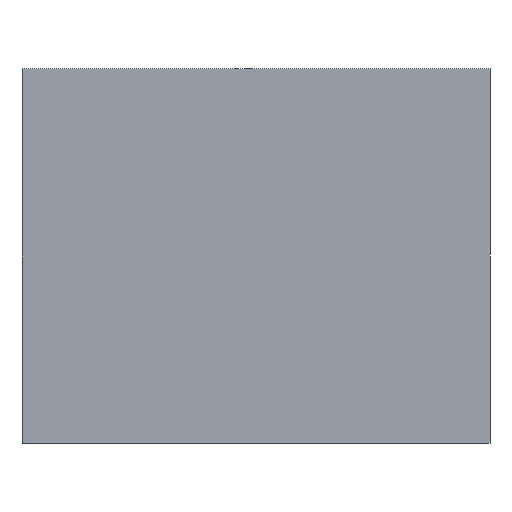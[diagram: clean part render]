
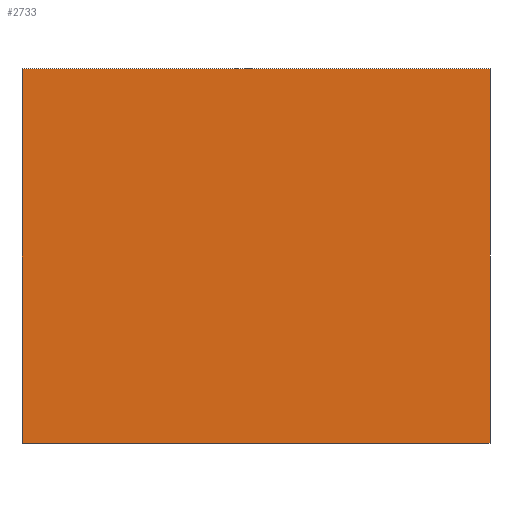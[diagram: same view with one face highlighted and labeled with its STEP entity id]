
A CAD part, front view. The second image highlights one B-rep face of the part: STEP entity #2733.
In plain terms, the highlighted planar face has unit normal (0, -1, 0).
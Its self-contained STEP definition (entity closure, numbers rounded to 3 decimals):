
#11 = VECTOR ( 'NONE', #1750, 1000. ) ;
#49 = DIRECTION ( 'NONE',  ( 0., -1., 0. ) ) ;
#60 = EDGE_LOOP ( 'NONE', ( #558, #2192, #3564, #272 ) ) ;
#76 = EDGE_CURVE ( 'NONE', #2793, #431, #1223, .T. ) ;
#272 = ORIENTED_EDGE ( 'NONE', *, *, #463, .F. ) ;
#431 = VERTEX_POINT ( 'NONE', #3971 ) ;
#463 = EDGE_CURVE ( 'NONE', #3827, #962, #4269, .T. ) ;
#558 = ORIENTED_EDGE ( 'NONE', *, *, #2464, .F. ) ;
#877 = CARTESIAN_POINT ( 'NONE',  ( -137.5, -135., 110.454 ) ) ;
#962 = VERTEX_POINT ( 'NONE', #5035 ) ;
#1223 = LINE ( 'NONE', #4070, #4080 ) ;
#1278 = VECTOR ( 'NONE', #3626, 1000. ) ;
#1381 = VECTOR ( 'NONE', #4583, 1000. ) ;
#1549 = DIRECTION ( 'NONE',  ( 1., 0., 0. ) ) ;
#1750 = DIRECTION ( 'NONE',  ( 0., 0., 1. ) ) ;
#2090 = CARTESIAN_POINT ( 'NONE',  ( 137.5, -135., -109.5 ) ) ;
#2192 = ORIENTED_EDGE ( 'NONE', *, *, #76, .F. ) ;
#2232 = EDGE_CURVE ( 'NONE', #962, #2793, #3202, .T. ) ;
#2245 = CARTESIAN_POINT ( 'NONE',  ( 137.5, -135., -109.5 ) ) ;
#2358 = CARTESIAN_POINT ( 'NONE',  ( 0., -135., 0. ) ) ;
#2403 = LINE ( 'NONE', #2245, #1381 ) ;
#2464 = EDGE_CURVE ( 'NONE', #431, #3827, #2403, .T. ) ;
#2715 = FACE_OUTER_BOUND ( 'NONE', #60, .T. ) ;
#2733 = ADVANCED_FACE ( 'NONE', ( #2715 ), #4713, .T. ) ;
#2756 = DIRECTION ( 'NONE',  ( 0., 0., -1. ) ) ;
#2793 = VERTEX_POINT ( 'NONE', #877 ) ;
#2871 = CARTESIAN_POINT ( 'NONE',  ( -137.5, -135., -109.5 ) ) ;
#3202 = LINE ( 'NONE', #2871, #11 ) ;
#3209 = CARTESIAN_POINT ( 'NONE',  ( 137.5, -135., -109.5 ) ) ;
#3564 = ORIENTED_EDGE ( 'NONE', *, *, #2232, .F. ) ;
#3626 = DIRECTION ( 'NONE',  ( -1., 0., 0. ) ) ;
#3827 = VERTEX_POINT ( 'NONE', #3209 ) ;
#3971 = CARTESIAN_POINT ( 'NONE',  ( 137.5, -135., 110.454 ) ) ;
#4070 = CARTESIAN_POINT ( 'NONE',  ( 137.5, -135., 110.454 ) ) ;
#4080 = VECTOR ( 'NONE', #1549, 1000. ) ;
#4269 = LINE ( 'NONE', #2090, #1278 ) ;
#4566 = AXIS2_PLACEMENT_3D ( 'NONE', #2358, #49, #2756 ) ;
#4583 = DIRECTION ( 'NONE',  ( 0., 0., -1. ) ) ;
#4713 = PLANE ( 'NONE',  #4566 ) ;
#5035 = CARTESIAN_POINT ( 'NONE',  ( -137.5, -135., -109.5 ) ) ;
